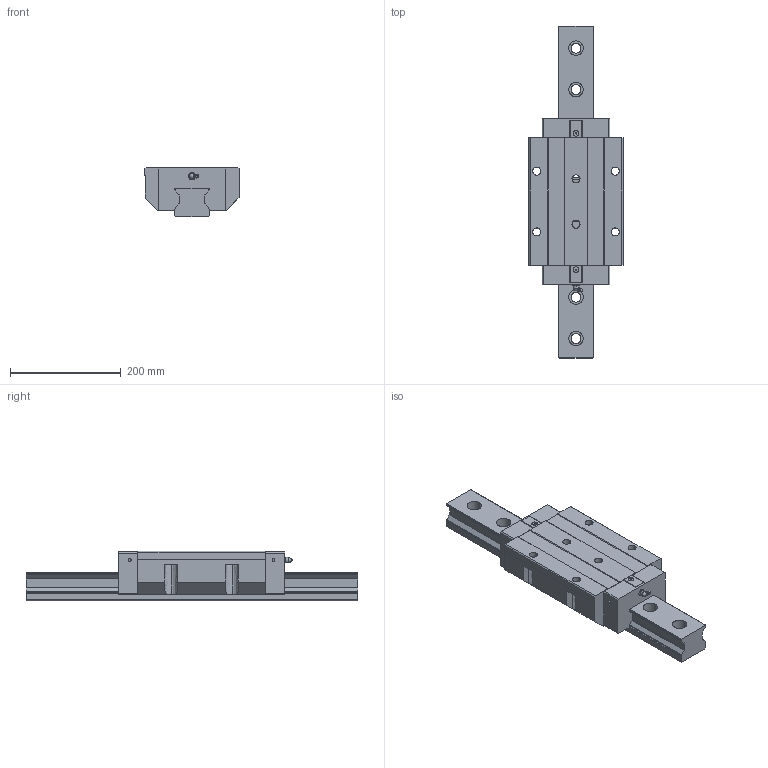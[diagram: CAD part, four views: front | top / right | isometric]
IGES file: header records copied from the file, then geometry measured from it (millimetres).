
Global section: file name:  ; native system: Kubotek KeyCreator V6.5.2 (0407); preprocessor: IGES 5.1; author:  ; organization:  ; date: 20100303.182256; units: millimetre
Bounding box: 170 x 600 x 90 mm (x, y, z)
Surface area: 375991.9 mm2 (no closed solid volume)
Topology: 0 solids, 0 shells, 260 faces, 1736 edges, 1734 vertices
Faces by surface type: bspline 260
